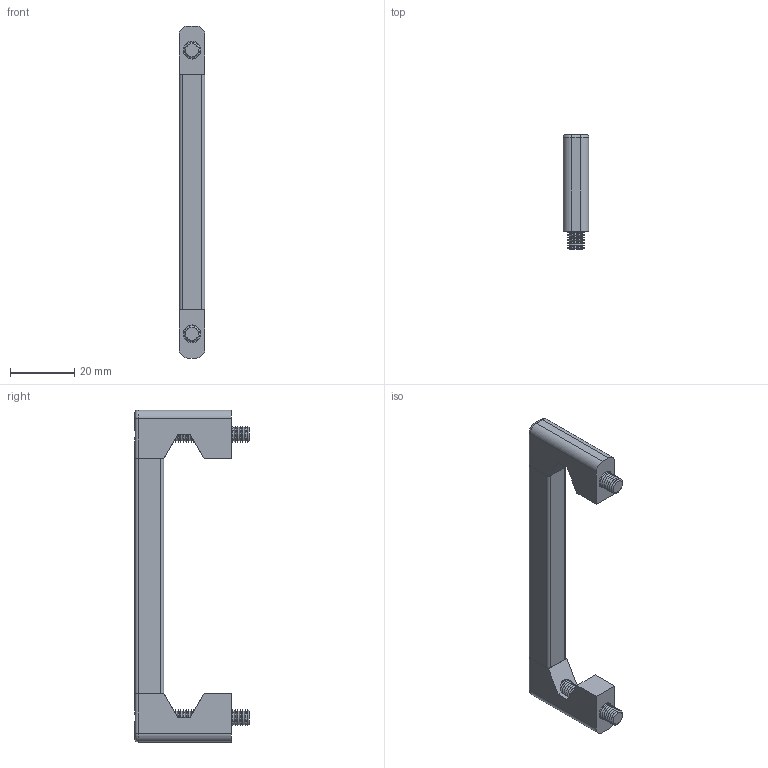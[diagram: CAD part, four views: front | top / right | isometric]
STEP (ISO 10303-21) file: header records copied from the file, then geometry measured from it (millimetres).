
FILE_DESCRIPTION (( 'STEP AP203' ), '1' );
FILE_NAME ('79350.W0288-4.step', '2018-04-28T14:56:15', ( '' ), ( '' ), 'SwSTEP 2.0', 'SolidWorks 2017', '' );
FILE_SCHEMA (( 'CONFIG_CONTROL_DESIGN' ));
Length unit declared in the file: millimetre
Products named in the file (4): SHCS_1_M5x45; Part3_79350.W0288-4; 79350.W0288-4; Part2
Assembly tree (5 placements, depth 2):
  79350.W0288-4
    Part3_79350.W0288-4
    Part2  x2
    SHCS_1_M5x45  x2
Bounding box: 8 x 35.5 x 103 mm (x, y, z)
Volume: 10626 mm3; surface area: 8846 mm2
Topology: 5 solids, 5 shells, 388 faces, 842 edges, 462 vertices
Faces by surface type: cone 264, plane 76, cylinder 44, torus 4
Entity records: 5931 total; most frequent: DIRECTION 1047, CARTESIAN_POINT 931, ORIENTED_EDGE 886, EDGE_CURVE 443, AXIS2_PLACEMENT_3D 399, VECTOR 249, LINE 249, VERTEX_POINT 247
